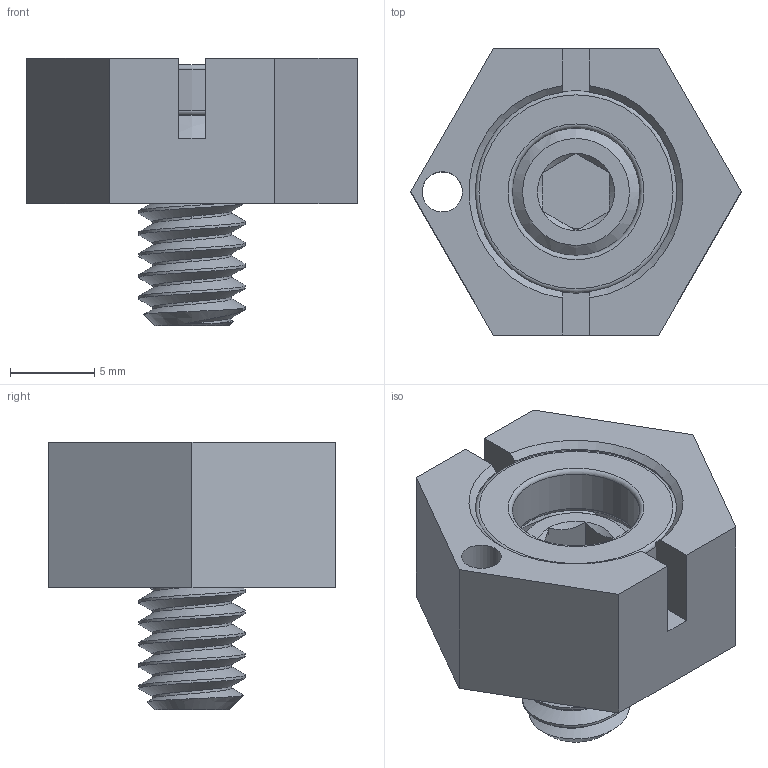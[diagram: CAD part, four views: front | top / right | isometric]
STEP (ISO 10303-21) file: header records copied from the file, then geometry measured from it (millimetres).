
FILE_DESCRIPTION(/* description */ (''),/* implementation_level */ '2;1');
FILE_NAME(/* name */ 'MAG-ADJST.step',/* time_stamp */ '2025-10-01T14:39:53-05:00',/* author */ (''),/* organization */ (''),/* preprocessor_version */ 'ST-DEVELOPER v20.1',/* originating_system */ 'Autodesk Translation Framework v14.17.0.0',/* authorisation */ '');
FILE_SCHEMA (('AUTOMOTIVE_DESIGN { 1 0 10303 214 3 1 1 }'));
Length unit declared in the file: millimetre
Products named in the file (5): MAG-ADJST; 90134A029_Steel Triple-Wave Washer; R1008D45H - MAGH RING MAGNET; 97715A262_Brass Button Head Hex Drive Screws; HEX-ADJ-MAG-HLDR-R2
Assembly tree (4 placements, depth 2):
  MAG-ADJST
    90134A029_Steel Triple-Wave Washer
    R1008D45H - MAGH RING MAGNET
    97715A262_Brass Button Head Hex Drive Screws
    HEX-ADJ-MAG-HLDR-R2
Bounding box: 19.65 x 17.02 x 15.89 mm (x, y, z)
Volume: 1873.8 mm3; surface area: 2271.2 mm2
Topology: 4 solids, 4 shells, 77 faces, 183 edges, 115 vertices
Faces by surface type: plane 28, cylinder 22, cone 12, bspline 10, torus 4, sphere 1
Full cylindrical faces by diameter (mm): 2.388 x1, 4.7 x6, 6.35 x7, 7.569 x1, 11.1 x1, 11.963 x1, 12.04 x1
Entity records: 4473 total; most frequent: CARTESIAN_POINT 2645, ORIENTED_EDGE 366, DIRECTION 325, EDGE_CURVE 183, AXIS2_PLACEMENT_3D 122, VERTEX_POINT 115, EDGE_LOOP 86, LINE 81
